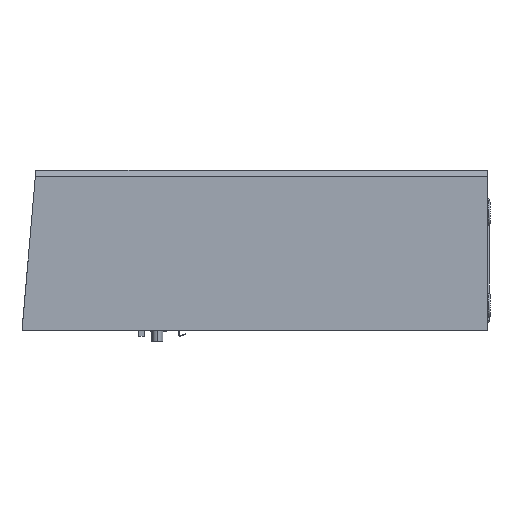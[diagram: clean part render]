
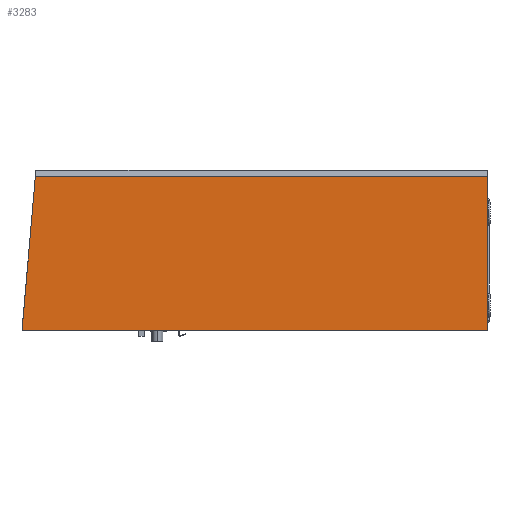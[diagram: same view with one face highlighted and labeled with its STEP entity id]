
A CAD part, left-side view. The second image highlights one B-rep face of the part: STEP entity #3283.
In plain terms, the highlighted planar face has unit normal (-1, 0, 0).
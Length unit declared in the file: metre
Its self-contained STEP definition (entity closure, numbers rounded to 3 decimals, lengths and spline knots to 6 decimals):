
#48=DIRECTION('',(0.,0.,1.));
#49=VECTOR('',#48,0.3732);
#50=CARTESIAN_POINT('',(-0.2275,0.,0.));
#51=LINE('',#50,#49);
#710=DIRECTION('',(0.,1.,0.));
#711=VECTOR('',#710,1.13481);
#712=CARTESIAN_POINT('',(-0.2275,0.,0.));
#713=LINE('',#712,#711);
#714=DIRECTION('',(0.,-0.087,0.996));
#715=VECTOR('',#714,0.37461);
#716=CARTESIAN_POINT('',(-0.2275,1.13481,0.));
#717=LINE('',#716,#715);
#718=DIRECTION('',(0.,-1.,0.));
#719=VECTOR('',#718,1.102342);
#720=CARTESIAN_POINT('',(-0.2275,1.102342,0.3732));
#721=LINE('',#720,#719);
#1928=CARTESIAN_POINT('',(-0.2275,0.,0.));
#1930=VERTEX_POINT('',#1928);
#1931=CARTESIAN_POINT('',(-0.2275,0.,0.3732));
#1932=VERTEX_POINT('',#1931);
#1993=CARTESIAN_POINT('',(-0.2275,1.13481,0.));
#1994=VERTEX_POINT('',#1993);
#2045=CARTESIAN_POINT('',(-0.2275,1.102342,0.3732));
#2046=VERTEX_POINT('',#2045);
#3271=CARTESIAN_POINT('',(-0.2275,0.567405,0.1866));
#3272=DIRECTION('',(1.,0.,0.));
#3273=DIRECTION('',(0.,0.,1.));
#3274=AXIS2_PLACEMENT_3D('',#3271,#3272,#3273);
#3275=PLANE('',#3274);
#3276=ORIENTED_EDGE('',*,*,#2552,.T.);
#3278=ORIENTED_EDGE('',*,*,#3277,.T.);
#3279=ORIENTED_EDGE('',*,*,#3262,.T.);
#3280=ORIENTED_EDGE('',*,*,#2457,.F.);
#3281=EDGE_LOOP('',(#3276,#3278,#3279,#3280));
#3282=FACE_OUTER_BOUND('',#3281,.F.);
#3283=ADVANCED_FACE('',(#3282),#3275,.F.);
#2457=EDGE_CURVE('',#1930,#1932,#51,.T.);
#2552=EDGE_CURVE('',#1930,#1994,#713,.T.);
#3262=EDGE_CURVE('',#2046,#1932,#721,.T.);
#3277=EDGE_CURVE('',#1994,#2046,#717,.T.);
